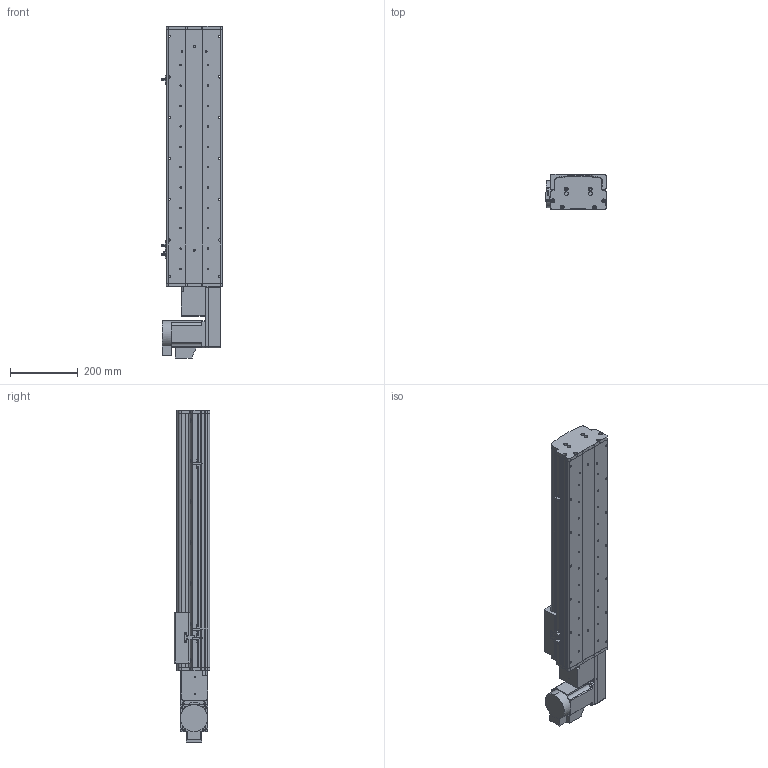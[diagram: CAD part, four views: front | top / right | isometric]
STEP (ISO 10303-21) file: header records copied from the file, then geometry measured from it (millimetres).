
FILE_DESCRIPTION (( 'STEP AP214' ), '1' );
FILE_NAME ('KSD165B-S500-MRB-CM.STEP', '2017-10-16T08:44:51', ( '微软用户' ), ( '微软中国' ), 'SwSTEP 2.0', 'SolidWorks 2014', '' );
FILE_SCHEMA (( 'AUTOMOTIVE_DESIGN' ));
Length unit declared in the file: millimetre
Products named in the file (18): HTPA26S5M250-A-H8 400W萇儂蚚 ; 130宽模组马达安装板连板左右折同步带; 130宽模组保护罩上下左右折-同步带; KSD165模组-同步带防尘盖1-500行程-最新版; U倰嫖萇假蚾璃; U倰嫖萇EEㄜSX672; 覜茼え68遵圉猾敕; KSD165模组-同步带-防撞垫2; KSD165模组同步带-防撞垫1; KSD165耀郪-ヶ傷啣1-肮祭湍; KSD165模组-后端板1-同步带; KSD165模组-同步带滑动座-最新版; KSD165模组同步带底板-500行程-最新; KSD165B-S500-MRB-CM; 拸秶雄ん750W侜督萇儂; 165宽马达安装板同步带右; 肣翐M4X35樓6; HTPA26S5M250-A-H8 750W萇儂蚚
Assembly tree (22 placements, depth 2):
  KSD165B-S500-MRB-CM
    KSD165模组同步带底板-500行程-最新
    KSD165模组-同步带滑动座-最新版
    KSD165模组-后端板1-同步带
    KSD165耀郪-ヶ傷啣1-肮祭湍
    KSD165模组同步带-防撞垫1
    KSD165模组-同步带-防撞垫2
    覜茼え68遵圉猾敕
    U倰嫖萇EEㄜSX672  x3
    U倰嫖萇假蚾璃  x3
    KSD165模组-同步带防尘盖1-500行程-最新版
    130宽模组保护罩上下左右折-同步带
    130宽模组马达安装板连板左右折同步带
    HTPA26S5M250-A-H8 400W萇儂蚚 
    HTPA26S5M250-A-H8 750W萇儂蚚
    肣翐M4X35樓6  x2
    165宽马达安装板同步带右
    拸秶雄ん750W侜督萇儂
Bounding box: 178.7 x 104 x 977.5 mm (x, y, z)
Volume: 5662087 mm3; surface area: 1311961.1 mm2
Topology: 23 solids, 23 shells, 1929 faces, 5420 edges, 3534 vertices
Faces by surface type: cylinder 1215, plane 598, cone 116
Entity records: 61558 total; most frequent: CARTESIAN_POINT 12602, DIRECTION 10158, ORIENTED_EDGE 9428, EDGE_CURVE 4714, AXIS2_PLACEMENT_3D 3971, VERTEX_POINT 3105, CIRCLE 2252, LINE 2216
